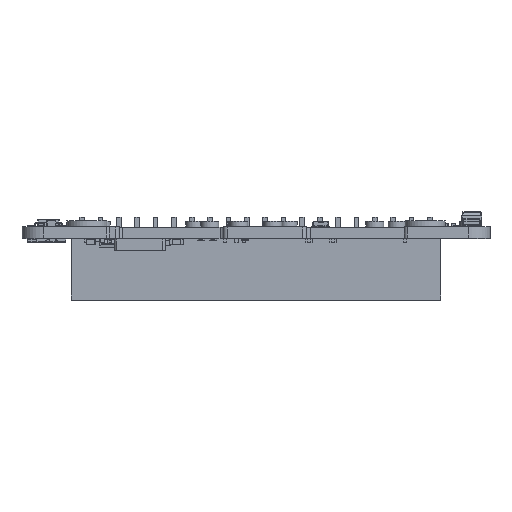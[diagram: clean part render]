
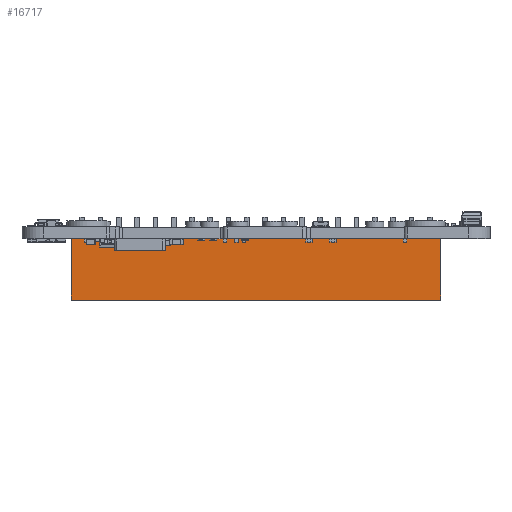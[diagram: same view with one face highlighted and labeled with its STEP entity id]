
A CAD part, top view. The second image highlights one B-rep face of the part: STEP entity #16717.
In plain terms, the highlighted planar face has unit normal (0, 0, 1) as drawn and (0, 0, -1) by its records, which use the part's own axes.
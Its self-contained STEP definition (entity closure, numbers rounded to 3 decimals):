
#5834=DIRECTION('',(0.,-1.,0.));
#5835=VECTOR('',#5834,8.5);
#5836=CARTESIAN_POINT('',(-25.65,4.25,-2.5));
#5837=LINE('',#5836,#5835);
#5841=DIRECTION('',(1.,0.,0.));
#5842=VECTOR('',#5841,51.3);
#5843=CARTESIAN_POINT('',(-25.65,-4.25,-2.5));
#5844=LINE('',#5843,#5842);
#5848=DIRECTION('',(0.,1.,0.));
#5849=VECTOR('',#5848,8.5);
#5850=CARTESIAN_POINT('',(25.65,-4.25,-2.5));
#5851=LINE('',#5850,#5849);
#5855=DIRECTION('',(-1.,0.,0.));
#5856=VECTOR('',#5855,51.3);
#5857=CARTESIAN_POINT('',(25.65,4.25,-2.5));
#5858=LINE('',#5857,#5856);
#15054=CARTESIAN_POINT('',(-25.65,4.25,-2.5));
#15055=CARTESIAN_POINT('',(-25.65,-4.25,-2.5));
#15056=VERTEX_POINT('',#15054);
#15057=VERTEX_POINT('',#15055);
#15058=CARTESIAN_POINT('',(25.65,-4.25,-2.5));
#15059=VERTEX_POINT('',#15058);
#15060=CARTESIAN_POINT('',(25.65,4.25,-2.5));
#15061=VERTEX_POINT('',#15060);
#16702=CARTESIAN_POINT('',(0.,0.,-2.5));
#16703=DIRECTION('',(0.,0.,1.));
#16704=DIRECTION('',(1.,0.,0.));
#16705=AXIS2_PLACEMENT_3D('',#16702,#16703,#16704);
#16706=PLANE('',#16705);
#16708=ORIENTED_EDGE('',*,*,#16707,.T.);
#16710=ORIENTED_EDGE('',*,*,#16709,.T.);
#16712=ORIENTED_EDGE('',*,*,#16711,.T.);
#16714=ORIENTED_EDGE('',*,*,#16713,.T.);
#16715=EDGE_LOOP('',(#16708,#16710,#16712,#16714));
#16716=FACE_OUTER_BOUND('',#16715,.F.);
#16717=ADVANCED_FACE('',(#16716),#16706,.F.);
#16707=EDGE_CURVE('',#15056,#15057,#5837,.T.);
#16709=EDGE_CURVE('',#15057,#15059,#5844,.T.);
#16711=EDGE_CURVE('',#15059,#15061,#5851,.T.);
#16713=EDGE_CURVE('',#15061,#15056,#5858,.T.);
